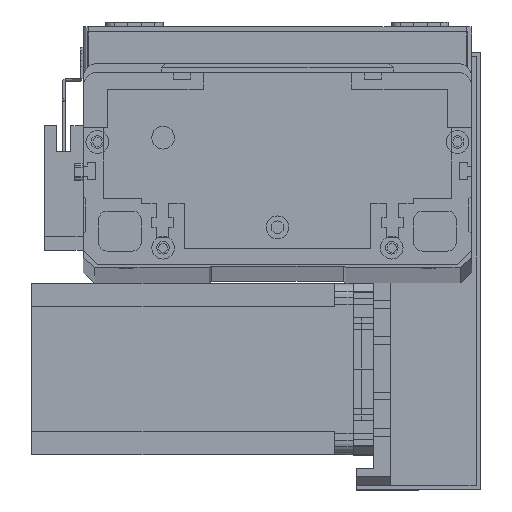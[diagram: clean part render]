
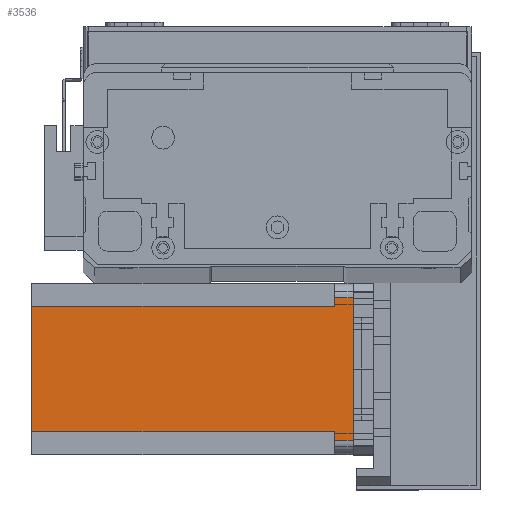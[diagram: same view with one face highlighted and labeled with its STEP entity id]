
A CAD part, top view. The second image highlights one B-rep face of the part: STEP entity #3536.
In plain terms, the highlighted planar face has unit normal (0, 0, 1) as drawn and (0, -1, 0) by its records, which use the part's own axes.
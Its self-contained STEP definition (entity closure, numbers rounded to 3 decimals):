
#287 = ORIENTED_EDGE ( 'NONE', *, *, #8662, .F. ) ;
#439 = VERTEX_POINT ( 'NONE', #26768 ) ;
#2156 = DIRECTION ( 'NONE',  ( 1., 0., 0. ) ) ;
#2188 = AXIS2_PLACEMENT_3D ( 'NONE', #13350, #30224, #15757 ) ;
#2567 = CARTESIAN_POINT ( 'NONE',  ( 52., 0., -112.5 ) ) ;
#2748 = ORIENTED_EDGE ( 'NONE', *, *, #22262, .F. ) ;
#3536 = ADVANCED_FACE ( 'NONE', ( #15105 ), #6079, .T. ) ;
#3614 = LINE ( 'NONE', #30932, #27753 ) ;
#3639 = LINE ( 'NONE', #2567, #27781 ) ;
#3976 = VERTEX_POINT ( 'NONE', #22310 ) ;
#4462 = CARTESIAN_POINT ( 'NONE',  ( 52., 0., -6.5 ) ) ;
#4683 = VECTOR ( 'NONE', #24514, 1000. ) ;
#4898 = LINE ( 'NONE', #11661, #29779 ) ;
#5607 = VERTEX_POINT ( 'NONE', #21472 ) ;
#5739 = VERTEX_POINT ( 'NONE', #17525 ) ;
#5865 = CARTESIAN_POINT ( 'NONE',  ( 0., 0., -112.5 ) ) ;
#6079 = PLANE ( 'NONE',  #2188 ) ;
#6470 = EDGE_CURVE ( 'NONE', #15937, #29104, #30305, .T. ) ;
#7297 = CARTESIAN_POINT ( 'NONE',  ( 5., 0., 0. ) ) ;
#8262 = DIRECTION ( 'NONE',  ( 1., 0., 0. ) ) ;
#8662 = EDGE_CURVE ( 'NONE', #15937, #3976, #4898, .T. ) ;
#8943 = DIRECTION ( 'NONE',  ( 1., 0., 0. ) ) ;
#9065 = DIRECTION ( 'NONE',  ( -1., 0., 0. ) ) ;
#9789 = ORIENTED_EDGE ( 'NONE', *, *, #13280, .T. ) ;
#11215 = LINE ( 'NONE', #16679, #30485 ) ;
#11661 = CARTESIAN_POINT ( 'NONE',  ( 8., 0., -112.5 ) ) ;
#12912 = ORIENTED_EDGE ( 'NONE', *, *, #28814, .T. ) ;
#13019 = EDGE_LOOP ( 'NONE', ( #30831, #12912, #23055, #9789, #29033, #287, #21901, #2748 ) ) ;
#13187 = VERTEX_POINT ( 'NONE', #7297 ) ;
#13280 = EDGE_CURVE ( 'NONE', #13187, #5739, #23936, .T. ) ;
#13350 = CARTESIAN_POINT ( 'NONE',  ( 0., 0., -112.5 ) ) ;
#13649 = EDGE_CURVE ( 'NONE', #29421, #5607, #27671, .T. ) ;
#14212 = CARTESIAN_POINT ( 'NONE',  ( 8., 0., -112.5 ) ) ;
#15105 = FACE_OUTER_BOUND ( 'NONE', #13019, .T. ) ;
#15279 = CARTESIAN_POINT ( 'NONE',  ( 52., 0., -112.5 ) ) ;
#15757 = DIRECTION ( 'NONE',  ( 0., 0., -1. ) ) ;
#15937 = VERTEX_POINT ( 'NONE', #14212 ) ;
#16526 = DIRECTION ( 'NONE',  ( 0., 0., 1. ) ) ;
#16679 = CARTESIAN_POINT ( 'NONE',  ( 0., 0., 0. ) ) ;
#17450 = VECTOR ( 'NONE', #8262, 1000. ) ;
#17525 = CARTESIAN_POINT ( 'NONE',  ( 5., 0., -6.5 ) ) ;
#18906 = DIRECTION ( 'NONE',  ( 0., 0., 1. ) ) ;
#20308 = EDGE_CURVE ( 'NONE', #13187, #439, #11215, .T. ) ;
#20992 = CARTESIAN_POINT ( 'NONE',  ( 52., 0., -6.5 ) ) ;
#21103 = VECTOR ( 'NONE', #9065, 1000. ) ;
#21240 = VECTOR ( 'NONE', #8943, 1000. ) ;
#21472 = CARTESIAN_POINT ( 'NONE',  ( 55., 0., -6.5 ) ) ;
#21901 = ORIENTED_EDGE ( 'NONE', *, *, #6470, .T. ) ;
#22063 = CARTESIAN_POINT ( 'NONE',  ( 5., 0., -112.5 ) ) ;
#22262 = EDGE_CURVE ( 'NONE', #29421, #29104, #3639, .T. ) ;
#22310 = CARTESIAN_POINT ( 'NONE',  ( 8., 0., -6.5 ) ) ;
#23055 = ORIENTED_EDGE ( 'NONE', *, *, #20308, .F. ) ;
#23936 = LINE ( 'NONE', #22063, #4683 ) ;
#24313 = DIRECTION ( 'NONE',  ( 0., 0., -1. ) ) ;
#24514 = DIRECTION ( 'NONE',  ( 0., 0., -1. ) ) ;
#25877 = EDGE_CURVE ( 'NONE', #3976, #5739, #27523, .T. ) ;
#26004 = CARTESIAN_POINT ( 'NONE',  ( 8., 0., -6.5 ) ) ;
#26768 = CARTESIAN_POINT ( 'NONE',  ( 55., 0., 0. ) ) ;
#27523 = LINE ( 'NONE', #26004, #21103 ) ;
#27671 = LINE ( 'NONE', #20992, #21240 ) ;
#27753 = VECTOR ( 'NONE', #18906, 1000. ) ;
#27781 = VECTOR ( 'NONE', #24313, 1000. ) ;
#28814 = EDGE_CURVE ( 'NONE', #5607, #439, #3614, .T. ) ;
#29033 = ORIENTED_EDGE ( 'NONE', *, *, #25877, .F. ) ;
#29104 = VERTEX_POINT ( 'NONE', #15279 ) ;
#29421 = VERTEX_POINT ( 'NONE', #4462 ) ;
#29779 = VECTOR ( 'NONE', #16526, 1000. ) ;
#30224 = DIRECTION ( 'NONE',  ( 0., -1., 0. ) ) ;
#30305 = LINE ( 'NONE', #5865, #17450 ) ;
#30485 = VECTOR ( 'NONE', #2156, 1000. ) ;
#30831 = ORIENTED_EDGE ( 'NONE', *, *, #13649, .T. ) ;
#30932 = CARTESIAN_POINT ( 'NONE',  ( 55., 0., -112.5 ) ) ;
